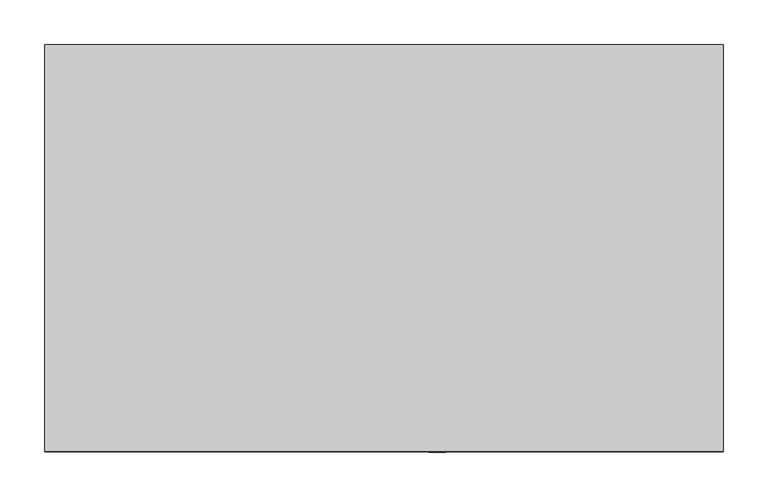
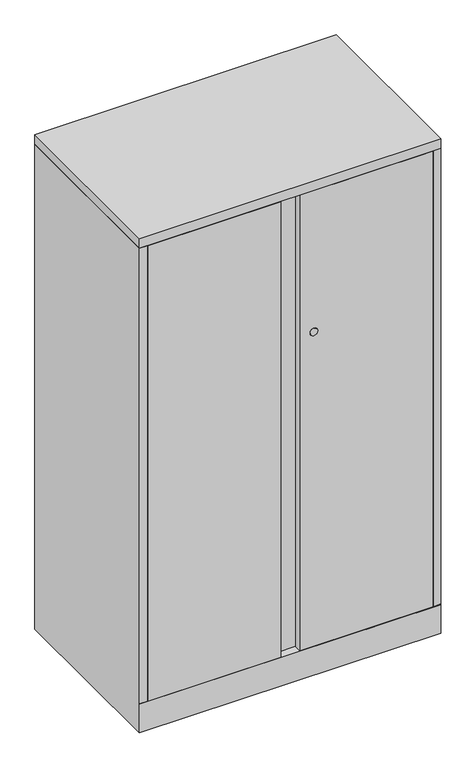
"""IFC4 building model written with IfcOpenShell, lengths in millimetres: furniture geometry, Steelcase - Universal Storage - Cabinet - Storage - 40H-52H - Flush Steel : 52H x 18D x 30W."""

from ifc_helpers import new_model, si_unit, point, frame, frame_2d, origin, place, context, project, spatial, polyline, circle_curve, trimmed, segment, composite_curve, outline, extrude, faceted_brep, source, transform, mapped, element, save


def furniture_ddaa8dd9(model_context):
    return source(origin(), model_context, "Body", "SolidModel", [
        extrude(outline(polyline([(762.0, 0.0), (762.0, -457.2), (0.0, -457.2), (0.0, 0.0), (762.0, 0.0)])), frame((0.0, 0.0, 1295.4), z_axis=(0.0, 0.0, 1.0), x_axis=(1.0, 0.0, 0.0)), (0.0, 0.0, 1.0), 25.4000484),
        extrude(outline(composite_curve([segment(trimmed(circle_curve(frame_2d((917.575, 440.8109835)), 9.7167829), [point((917.575, 450.5277664))], [point((917.575, 431.0942006))], False, "CARTESIAN"), True, "CONTINUOUS"), segment(trimmed(circle_curve(frame_2d((917.575, 440.8109835)), 9.7167829), [point((917.575, 431.0942006))], [point((917.575, 450.5277664))], False, "CARTESIAN"), True, "CONTINUOUS")], self_intersect=False)), frame((0.0, -457.8695275, 0.0), z_axis=(0.0, 1.0, 0.0), x_axis=(0.0, 0.0, 1.0)), (0.0, 0.0, 1.0), 0.6695275),
        extrude(outline(polyline([(20.8280006, -431.673866), (741.172, -431.673866), (741.172, -457.2), (405.13, -457.2), (405.13, -438.0238781), (356.87, -438.0238781), (356.87, -457.2), (20.8280006, -457.2), (20.8280006, -431.673866)])), frame((0.0, 0.0, 77.724), z_axis=(0.0, 0.0, 1.0), x_axis=(1.0, 0.0, 0.0)), (0.0, 0.0, 1.0), 1216.406),
        faceted_brep([(762.0, 0.0, 0.0), (762.0, -457.2, 0.0), (0.0, -457.2, 0.0), (0.0, 0.0, 0.0), (0.0, 0.0, 1295.4), (762.0, 0.0, 1295.4), (0.0, -457.2, 76.2), (0.0, -457.2, 77.724), (0.0, -457.2, 1295.4), (762.0, -457.2, 76.2), (762.0, -457.2, 1295.4), (762.0, -457.2, 77.724), (736.6000242, -25.4000008, 1295.4), (736.6000242, -430.1498674, 1295.4), (741.172, -430.1498674, 1295.4), (741.172, -431.6738781, 1295.4), (742.696, -431.6738781, 1295.4), (742.696, -457.2, 1295.4), (19.304, -457.2, 1295.4), (19.304, -431.673866, 1295.4), (20.8280006, -431.673866, 1295.4), (20.8280006, -430.1498674, 1295.4), (25.4000008, -430.1498674, 1295.4), (25.4000008, -25.4000008, 1295.4), (19.304, -457.2, 77.724), (19.304, -437.896, 77.724), (742.696, -457.2, 77.724), (742.696, -437.7698418, 77.724), (736.6000242, -25.4000008, 77.724), (736.6000242, -430.1498674, 77.724), (741.172, -430.1498674, 77.724), (741.172, -431.6738781, 77.724), (742.696, -431.6738781, 77.724), (19.304, -431.673866, 77.724), (20.8280006, -431.673866, 77.724), (20.8280006, -430.1498674, 77.724), (25.4000008, -430.1498674, 77.724), (25.4000008, -25.4000008, 77.724), (25.526134, -431.673866, 77.724), (736.6000242, -431.673866, 77.724)], [[[0, 1, 2, 3]], [[0, 3, 4, 5]], [[4, 3, 2, 6, 7, 8]], [[2, 1, 9, 6]], [[1, 0, 5, 10, 11, 9]], [[12, 13, 14, 15, 16, 17, 10, 5, 4, 8, 18, 19, 20, 21, 22, 23]], [[24, 7, 25]], [[11, 26, 27]], [[13, 12, 28, 29]], [[14, 13, 29, 30]], [[15, 14, 30, 31]], [[16, 15, 31, 32]], [[17, 16, 32, 27, 26]], [[10, 17, 26, 11]], [[18, 8, 7, 24]], [[19, 18, 24, 25, 33]], [[20, 19, 33, 34]], [[21, 20, 34, 35]], [[22, 21, 35, 36]], [[23, 22, 36, 37]], [[12, 23, 37, 28]], [[38, 39, 27, 32, 31, 30, 29, 28, 37, 36, 35, 34, 33, 25]], [[7, 6, 38, 25]], [[39, 38, 6, 9]], [[39, 9, 11, 27]]]),
    ])


if __name__ == "__main__":
    model = new_model("IFC4")
    model_context = context("Model", 3, world=origin())
    ifc_project = project(units=[si_unit("LENGTHUNIT", "METRE", prefix="MILLI")], contexts=[model_context])
    site = spatial("IfcSite", under=ifc_project)
    building = spatial("IfcBuilding", under=site)
    placement = place(None, origin())
    furniture_shape = furniture_ddaa8dd9(model_context)
    element("IfcFurniture", 1, ObjectType="Steelcase - Universal Storage - Cabinet - Storage - 40H-52H - Flush Steel : 52H x 18D x 30W", at=placement, inside=building, context=model_context, shape_type="MappedRepresentation", body=[
        mapped(furniture_shape, transform((0.0, 0.0, 0.0), x_axis=(1.0, 0.0, 0.0), y_axis=(0.0, 1.0, 0.0), z_axis=(0.0, 0.0, 1.0))),
    ])
    save(model, "model.ifc")
